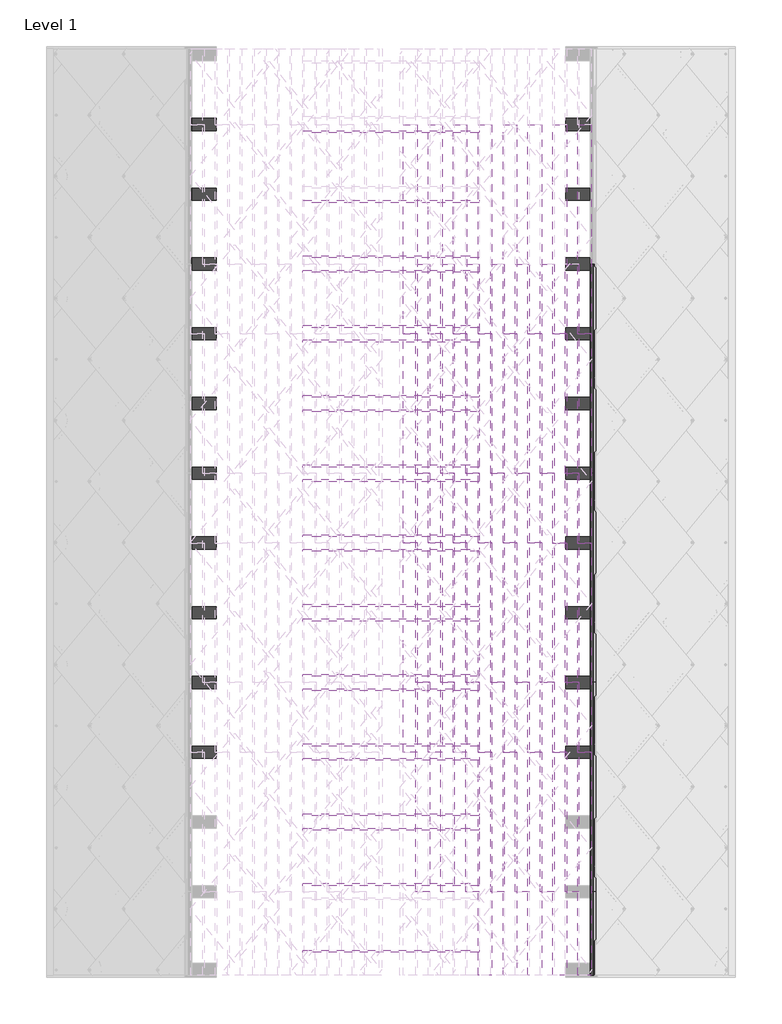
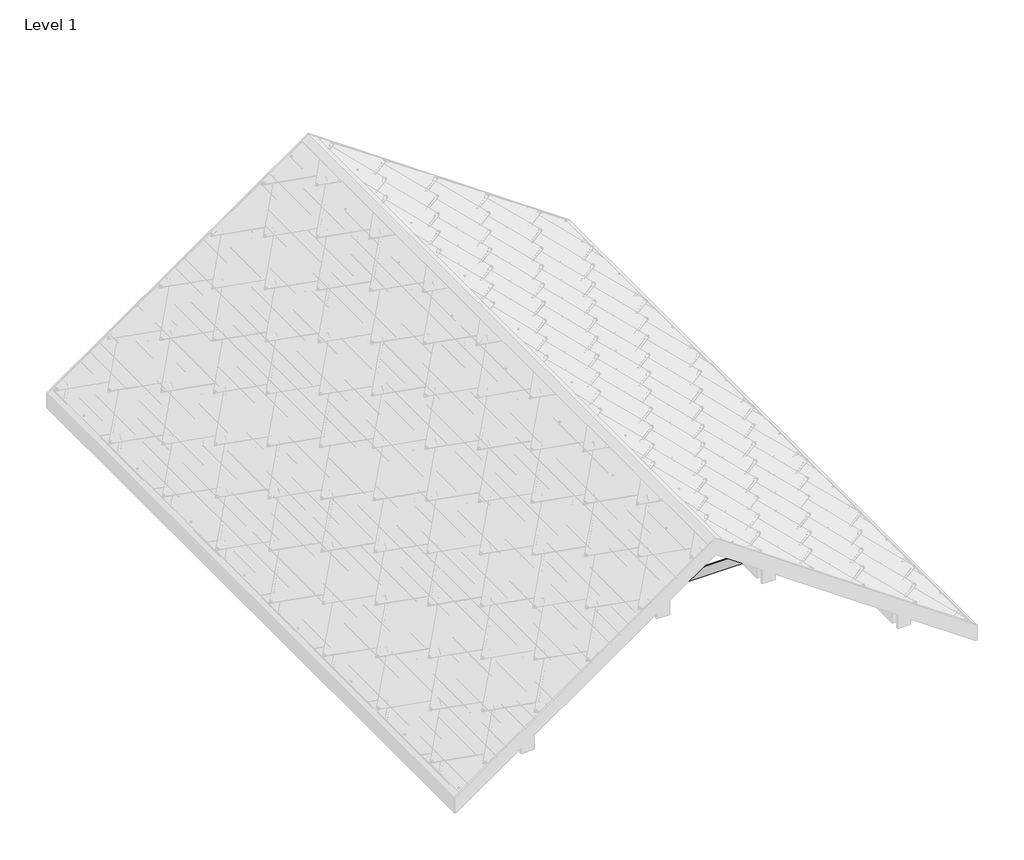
# One storey, part 2 of 5: 122 beams.
"""IFC4 building model written with IfcOpenShell, lengths in millimetres."""

from ifc_helpers import new_model, si_unit, origin, place, context, project, spatial, transform, mapped, element, save
from components import structural_framing_1_structural_framing_1_4f4e03de, structural_framing_156_structural_framing_15_8572bb24, structural_framing_161_structural_framing_15_e03e88da, structural_framing_163_structural_framing_15_fd44f6a2, structural_framing_159_structural_framing_15_e730e61d, structural_framing_296_structural_framing_296_04115515, structural_framing_298_structural_framing_296_1c13a3da

model = new_model("IFC4")

# Units and contexts
model_context = context("Model", 3, world=origin())
ifc_project = project(units=[si_unit("LENGTHUNIT", "METRE", prefix="MILLI")], contexts=[model_context])

# Site, building, storey
site = spatial("IfcSite", under=ifc_project)
building = spatial("IfcBuilding", under=site)
storey = spatial("IfcBuildingStorey", under=building, Name="Level 1", Elevation=0.0)

# Beams
placement = place(None, origin())
structural_framing_1_structural_framing_1_shape = structural_framing_1_structural_framing_1_4f4e03de(model_context)
element("IfcBeam", 1, ObjectType="Structural Framing 10 : Structural Framing 1", at=placement, inside=storey, context=model_context, shape_type="MappedRepresentation", body=[
    mapped(structural_framing_1_structural_framing_1_shape, transform((0.0, -7200.0, 0.0), x_axis=(1.0, 0.0, 0.0), y_axis=(0.0, 1.0, 0.0), z_axis=(0.0, 0.0, 1.0))),
])
element("IfcBeam", 2, ObjectType="Structural Framing 11 : Structural Framing 1", at=placement, inside=storey, context=model_context, shape_type="MappedRepresentation", body=[
    mapped(structural_framing_1_structural_framing_1_shape, transform((0.0, -8000.0, 0.0), x_axis=(1.0, 0.0, 0.0), y_axis=(0.0, 1.0, 0.0), z_axis=(0.0, 0.0, 1.0))),
])
structural_framing_156_structural_framing_15_shape = structural_framing_156_structural_framing_15_8572bb24(model_context)
element("IfcBeam", 3, ObjectType="Structural Framing 160 : Structural Framing 15", at=placement, inside=storey, context=model_context, shape_type="MappedRepresentation", body=[
    mapped(structural_framing_156_structural_framing_15_shape, transform((142.8148007, -870.0, -100.0), x_axis=(1.0, 0.0, 0.0), y_axis=(0.0, 1.0, 0.0), z_axis=(0.0, 0.0, 1.0))),
])
structural_framing_161_structural_framing_15_shape = structural_framing_161_structural_framing_15_e03e88da(model_context)
element("IfcBeam", 4, ObjectType="Structural Framing 161 : Structural Framing 15", at=placement, inside=storey, context=model_context, shape_type="MappedRepresentation", body=[
    mapped(structural_framing_161_structural_framing_15_shape, transform((142.8148007, -3340.0, -100.0), x_axis=(1.0, 0.0, 0.0), y_axis=(0.0, 1.0, 0.0), z_axis=(0.0, 0.0, 1.0))),
])
element("IfcBeam", 5, ObjectType="Structural Framing 162 : Structural Framing 15", at=placement, inside=storey, context=model_context, shape_type="MappedRepresentation", body=[
    mapped(structural_framing_161_structural_framing_15_shape, transform((142.8148007, -5740.0, -100.0), x_axis=(1.0, 0.0, 0.0), y_axis=(0.0, 1.0, 0.0), z_axis=(0.0, 0.0, 1.0))),
])
element("IfcBeam", 6, ObjectType="Structural Framing 166 : Structural Framing 15", at=placement, inside=storey, context=model_context, shape_type="MappedRepresentation", body=[
    mapped(structural_framing_156_structural_framing_15_shape, transform((285.6296013, -2470.0, -200.0), x_axis=(1.0, 0.0, 0.0), y_axis=(0.0, 1.0, 0.0), z_axis=(0.0, 0.0, 1.0))),
])
element("IfcBeam", 7, ObjectType="Structural Framing 167 : Structural Framing 15", at=placement, inside=storey, context=model_context, shape_type="MappedRepresentation", body=[
    mapped(structural_framing_156_structural_framing_15_shape, transform((285.6296013, -4870.0, -200.0), x_axis=(1.0, 0.0, 0.0), y_axis=(0.0, 1.0, 0.0), z_axis=(0.0, 0.0, 1.0))),
])
element("IfcBeam", 8, ObjectType="Structural Framing 168 : Structural Framing 15", at=placement, inside=storey, context=model_context, shape_type="MappedRepresentation", body=[
    mapped(structural_framing_156_structural_framing_15_shape, transform((285.6296013, -7270.0, -200.0), x_axis=(1.0, 0.0, 0.0), y_axis=(0.0, 1.0, 0.0), z_axis=(0.0, 0.0, 1.0))),
])
element("IfcBeam", 9, ObjectType="Structural Framing 170 : Structural Framing 15", at=placement, inside=storey, context=model_context, shape_type="MappedRepresentation", body=[
    mapped(structural_framing_156_structural_framing_15_shape, transform((428.444402, -870.0, -300.0), x_axis=(1.0, 0.0, 0.0), y_axis=(0.0, 1.0, 0.0), z_axis=(0.0, 0.0, 1.0))),
])
element("IfcBeam", 10, ObjectType="Structural Framing 171 : Structural Framing 15", at=placement, inside=storey, context=model_context, shape_type="MappedRepresentation", body=[
    mapped(structural_framing_161_structural_framing_15_shape, transform((428.444402, -3340.0, -300.0), x_axis=(1.0, 0.0, 0.0), y_axis=(0.0, 1.0, 0.0), z_axis=(0.0, 0.0, 1.0))),
])
element("IfcBeam", 11, ObjectType="Structural Framing 172 : Structural Framing 15", at=placement, inside=storey, context=model_context, shape_type="MappedRepresentation", body=[
    mapped(structural_framing_161_structural_framing_15_shape, transform((428.444402, -5740.0, -300.0), x_axis=(1.0, 0.0, 0.0), y_axis=(0.0, 1.0, 0.0), z_axis=(0.0, 0.0, 1.0))),
])
element("IfcBeam", 12, ObjectType="Structural Framing 176 : Structural Framing 15", at=placement, inside=storey, context=model_context, shape_type="MappedRepresentation", body=[
    mapped(structural_framing_156_structural_framing_15_shape, transform((571.2592027, -2470.0, -400.0), x_axis=(1.0, 0.0, 0.0), y_axis=(0.0, 1.0, 0.0), z_axis=(0.0, 0.0, 1.0))),
])
element("IfcBeam", 13, ObjectType="Structural Framing 177 : Structural Framing 15", at=placement, inside=storey, context=model_context, shape_type="MappedRepresentation", body=[
    mapped(structural_framing_156_structural_framing_15_shape, transform((571.2592027, -4870.0, -400.0), x_axis=(1.0, 0.0, 0.0), y_axis=(0.0, 1.0, 0.0), z_axis=(0.0, 0.0, 1.0))),
])
element("IfcBeam", 14, ObjectType="Structural Framing 178 : Structural Framing 15", at=placement, inside=storey, context=model_context, shape_type="MappedRepresentation", body=[
    mapped(structural_framing_156_structural_framing_15_shape, transform((571.2592027, -7270.0, -400.0), x_axis=(1.0, 0.0, 0.0), y_axis=(0.0, 1.0, 0.0), z_axis=(0.0, 0.0, 1.0))),
])
element("IfcBeam", 15, ObjectType="Structural Framing 180 : Structural Framing 15", at=placement, inside=storey, context=model_context, shape_type="MappedRepresentation", body=[
    mapped(structural_framing_156_structural_framing_15_shape, transform((714.0740034, -870.0, -500.0), x_axis=(1.0, 0.0, 0.0), y_axis=(0.0, 1.0, 0.0), z_axis=(0.0, 0.0, 1.0))),
])
element("IfcBeam", 16, ObjectType="Structural Framing 181 : Structural Framing 15", at=placement, inside=storey, context=model_context, shape_type="MappedRepresentation", body=[
    mapped(structural_framing_161_structural_framing_15_shape, transform((714.0740034, -3340.0, -500.0), x_axis=(1.0, 0.0, 0.0), y_axis=(0.0, 1.0, 0.0), z_axis=(0.0, 0.0, 1.0))),
])
element("IfcBeam", 17, ObjectType="Structural Framing 182 : Structural Framing 15", at=placement, inside=storey, context=model_context, shape_type="MappedRepresentation", body=[
    mapped(structural_framing_161_structural_framing_15_shape, transform((714.0740034, -5740.0, -500.0), x_axis=(1.0, 0.0, 0.0), y_axis=(0.0, 1.0, 0.0), z_axis=(0.0, 0.0, 1.0))),
])
element("IfcBeam", 18, ObjectType="Structural Framing 186 : Structural Framing 15", at=placement, inside=storey, context=model_context, shape_type="MappedRepresentation", body=[
    mapped(structural_framing_156_structural_framing_15_shape, transform((856.888804, -2470.0, -600.0), x_axis=(1.0, 0.0, 0.0), y_axis=(0.0, 1.0, 0.0), z_axis=(0.0, 0.0, 1.0))),
])
element("IfcBeam", 19, ObjectType="Structural Framing 187 : Structural Framing 15", at=placement, inside=storey, context=model_context, shape_type="MappedRepresentation", body=[
    mapped(structural_framing_156_structural_framing_15_shape, transform((856.888804, -4870.0, -600.0), x_axis=(1.0, 0.0, 0.0), y_axis=(0.0, 1.0, 0.0), z_axis=(0.0, 0.0, 1.0))),
])
element("IfcBeam", 20, ObjectType="Structural Framing 188 : Structural Framing 15", at=placement, inside=storey, context=model_context, shape_type="MappedRepresentation", body=[
    mapped(structural_framing_156_structural_framing_15_shape, transform((856.888804, -7270.0, -600.0), x_axis=(1.0, 0.0, 0.0), y_axis=(0.0, 1.0, 0.0), z_axis=(0.0, 0.0, 1.0))),
])
element("IfcBeam", 21, ObjectType="Structural Framing 190 : Structural Framing 15", at=placement, inside=storey, context=model_context, shape_type="MappedRepresentation", body=[
    mapped(structural_framing_156_structural_framing_15_shape, transform((999.7036047, -870.0, -700.0), x_axis=(1.0, 0.0, 0.0), y_axis=(0.0, 1.0, 0.0), z_axis=(0.0, 0.0, 1.0))),
])
element("IfcBeam", 22, ObjectType="Structural Framing 191 : Structural Framing 15", at=placement, inside=storey, context=model_context, shape_type="MappedRepresentation", body=[
    mapped(structural_framing_161_structural_framing_15_shape, transform((999.7036047, -3340.0, -700.0), x_axis=(1.0, 0.0, 0.0), y_axis=(0.0, 1.0, 0.0), z_axis=(0.0, 0.0, 1.0))),
])
element("IfcBeam", 23, ObjectType="Structural Framing 192 : Structural Framing 15", at=placement, inside=storey, context=model_context, shape_type="MappedRepresentation", body=[
    mapped(structural_framing_161_structural_framing_15_shape, transform((999.7036047, -5740.0, -700.0), x_axis=(1.0, 0.0, 0.0), y_axis=(0.0, 1.0, 0.0), z_axis=(0.0, 0.0, 1.0))),
])
structural_framing_163_structural_framing_15_shape = structural_framing_163_structural_framing_15_fd44f6a2(model_context)
element("IfcBeam", 24, ObjectType="Structural Framing 193 : Structural Framing 15", at=placement, inside=storey, context=model_context, shape_type="MappedRepresentation", body=[
    mapped(structural_framing_163_structural_framing_15_shape, transform((999.7036047, -8140.0, -700.0), x_axis=(1.0, 0.0, 0.0), y_axis=(0.0, 1.0, 0.0), z_axis=(0.0, 0.0, 1.0))),
])
element("IfcBeam", 25, ObjectType="Structural Framing 196 : Structural Framing 15", at=placement, inside=storey, context=model_context, shape_type="MappedRepresentation", body=[
    mapped(structural_framing_156_structural_framing_15_shape, transform((1142.5184054, -2470.0, -800.0), x_axis=(1.0, 0.0, 0.0), y_axis=(0.0, 1.0, 0.0), z_axis=(0.0, 0.0, 1.0))),
])
element("IfcBeam", 26, ObjectType="Structural Framing 197 : Structural Framing 15", at=placement, inside=storey, context=model_context, shape_type="MappedRepresentation", body=[
    mapped(structural_framing_156_structural_framing_15_shape, transform((1142.5184054, -4870.0, -800.0), x_axis=(1.0, 0.0, 0.0), y_axis=(0.0, 1.0, 0.0), z_axis=(0.0, 0.0, 1.0))),
])
element("IfcBeam", 27, ObjectType="Structural Framing 198 : Structural Framing 15", at=placement, inside=storey, context=model_context, shape_type="MappedRepresentation", body=[
    mapped(structural_framing_156_structural_framing_15_shape, transform((1142.5184054, -7270.0, -800.0), x_axis=(1.0, 0.0, 0.0), y_axis=(0.0, 1.0, 0.0), z_axis=(0.0, 0.0, 1.0))),
])
element("IfcBeam", 28, ObjectType="Structural Framing 2 : Structural Framing 1", at=placement, inside=storey, context=model_context, shape_type="MappedRepresentation", body=[
    mapped(structural_framing_1_structural_framing_1_shape, transform((0.0, -800.0, 0.0), x_axis=(1.0, 0.0, 0.0), y_axis=(0.0, 1.0, 0.0), z_axis=(0.0, 0.0, 1.0))),
])
element("IfcBeam", 29, ObjectType="Structural Framing 200 : Structural Framing 15", at=placement, inside=storey, context=model_context, shape_type="MappedRepresentation", body=[
    mapped(structural_framing_156_structural_framing_15_shape, transform((1285.3332061, -870.0, -900.0), x_axis=(1.0, 0.0, 0.0), y_axis=(0.0, 1.0, 0.0), z_axis=(0.0, 0.0, 1.0))),
])
element("IfcBeam", 30, ObjectType="Structural Framing 201 : Structural Framing 15", at=placement, inside=storey, context=model_context, shape_type="MappedRepresentation", body=[
    mapped(structural_framing_161_structural_framing_15_shape, transform((1285.3332061, -3340.0, -900.0), x_axis=(1.0, 0.0, 0.0), y_axis=(0.0, 1.0, 0.0), z_axis=(0.0, 0.0, 1.0))),
])
element("IfcBeam", 31, ObjectType="Structural Framing 202 : Structural Framing 15", at=placement, inside=storey, context=model_context, shape_type="MappedRepresentation", body=[
    mapped(structural_framing_161_structural_framing_15_shape, transform((1285.3332061, -5740.0, -900.0), x_axis=(1.0, 0.0, 0.0), y_axis=(0.0, 1.0, 0.0), z_axis=(0.0, 0.0, 1.0))),
])
element("IfcBeam", 32, ObjectType="Structural Framing 203 : Structural Framing 15", at=placement, inside=storey, context=model_context, shape_type="MappedRepresentation", body=[
    mapped(structural_framing_163_structural_framing_15_shape, transform((1285.3332061, -8140.0, -900.0), x_axis=(1.0, 0.0, 0.0), y_axis=(0.0, 1.0, 0.0), z_axis=(0.0, 0.0, 1.0))),
])
element("IfcBeam", 33, ObjectType="Structural Framing 206 : Structural Framing 15", at=placement, inside=storey, context=model_context, shape_type="MappedRepresentation", body=[
    mapped(structural_framing_156_structural_framing_15_shape, transform((1428.1480067, -2470.0, -1000.0), x_axis=(1.0, 0.0, 0.0), y_axis=(0.0, 1.0, 0.0), z_axis=(0.0, 0.0, 1.0))),
])
element("IfcBeam", 34, ObjectType="Structural Framing 207 : Structural Framing 15", at=placement, inside=storey, context=model_context, shape_type="MappedRepresentation", body=[
    mapped(structural_framing_156_structural_framing_15_shape, transform((1428.1480067, -4870.0, -1000.0), x_axis=(1.0, 0.0, 0.0), y_axis=(0.0, 1.0, 0.0), z_axis=(0.0, 0.0, 1.0))),
])
element("IfcBeam", 35, ObjectType="Structural Framing 208 : Structural Framing 15", at=placement, inside=storey, context=model_context, shape_type="MappedRepresentation", body=[
    mapped(structural_framing_156_structural_framing_15_shape, transform((1428.1480067, -7270.0, -1000.0), x_axis=(1.0, 0.0, 0.0), y_axis=(0.0, 1.0, 0.0), z_axis=(0.0, 0.0, 1.0))),
])
element("IfcBeam", 36, ObjectType="Structural Framing 210 : Structural Framing 15", at=placement, inside=storey, context=model_context, shape_type="MappedRepresentation", body=[
    mapped(structural_framing_156_structural_framing_15_shape, transform((1570.9628074, -870.0, -1100.0), x_axis=(1.0, 0.0, 0.0), y_axis=(0.0, 1.0, 0.0), z_axis=(0.0, 0.0, 1.0))),
])
element("IfcBeam", 37, ObjectType="Structural Framing 211 : Structural Framing 15", at=placement, inside=storey, context=model_context, shape_type="MappedRepresentation", body=[
    mapped(structural_framing_161_structural_framing_15_shape, transform((1570.9628074, -3340.0, -1100.0), x_axis=(1.0, 0.0, 0.0), y_axis=(0.0, 1.0, 0.0), z_axis=(0.0, 0.0, 1.0))),
])
element("IfcBeam", 38, ObjectType="Structural Framing 212 : Structural Framing 15", at=placement, inside=storey, context=model_context, shape_type="MappedRepresentation", body=[
    mapped(structural_framing_161_structural_framing_15_shape, transform((1570.9628074, -5740.0, -1100.0), x_axis=(1.0, 0.0, 0.0), y_axis=(0.0, 1.0, 0.0), z_axis=(0.0, 0.0, 1.0))),
])
element("IfcBeam", 39, ObjectType="Structural Framing 213 : Structural Framing 15", at=placement, inside=storey, context=model_context, shape_type="MappedRepresentation", body=[
    mapped(structural_framing_163_structural_framing_15_shape, transform((1570.9628074, -8140.0, -1100.0), x_axis=(1.0, 0.0, 0.0), y_axis=(0.0, 1.0, 0.0), z_axis=(0.0, 0.0, 1.0))),
])
element("IfcBeam", 40, ObjectType="Structural Framing 216 : Structural Framing 15", at=placement, inside=storey, context=model_context, shape_type="MappedRepresentation", body=[
    mapped(structural_framing_156_structural_framing_15_shape, transform((1713.7776081, -2470.0, -1200.0), x_axis=(1.0, 0.0, 0.0), y_axis=(0.0, 1.0, 0.0), z_axis=(0.0, 0.0, 1.0))),
])
element("IfcBeam", 41, ObjectType="Structural Framing 217 : Structural Framing 15", at=placement, inside=storey, context=model_context, shape_type="MappedRepresentation", body=[
    mapped(structural_framing_156_structural_framing_15_shape, transform((1713.7776081, -4870.0, -1200.0), x_axis=(1.0, 0.0, 0.0), y_axis=(0.0, 1.0, 0.0), z_axis=(0.0, 0.0, 1.0))),
])
element("IfcBeam", 42, ObjectType="Structural Framing 218 : Structural Framing 15", at=placement, inside=storey, context=model_context, shape_type="MappedRepresentation", body=[
    mapped(structural_framing_156_structural_framing_15_shape, transform((1713.7776081, -7270.0, -1200.0), x_axis=(1.0, 0.0, 0.0), y_axis=(0.0, 1.0, 0.0), z_axis=(0.0, 0.0, 1.0))),
])
element("IfcBeam", 43, ObjectType="Structural Framing 220 : Structural Framing 15", at=placement, inside=storey, context=model_context, shape_type="MappedRepresentation", body=[
    mapped(structural_framing_156_structural_framing_15_shape, transform((1856.5924088, -870.0, -1300.0), x_axis=(1.0, 0.0, 0.0), y_axis=(0.0, 1.0, 0.0), z_axis=(0.0, 0.0, 1.0))),
])
element("IfcBeam", 44, ObjectType="Structural Framing 221 : Structural Framing 15", at=placement, inside=storey, context=model_context, shape_type="MappedRepresentation", body=[
    mapped(structural_framing_161_structural_framing_15_shape, transform((1856.5924088, -3340.0, -1300.0), x_axis=(1.0, 0.0, 0.0), y_axis=(0.0, 1.0, 0.0), z_axis=(0.0, 0.0, 1.0))),
])
element("IfcBeam", 45, ObjectType="Structural Framing 222 : Structural Framing 15", at=placement, inside=storey, context=model_context, shape_type="MappedRepresentation", body=[
    mapped(structural_framing_161_structural_framing_15_shape, transform((1856.5924088, -5740.0, -1300.0), x_axis=(1.0, 0.0, 0.0), y_axis=(0.0, 1.0, 0.0), z_axis=(0.0, 0.0, 1.0))),
])
element("IfcBeam", 46, ObjectType="Structural Framing 223 : Structural Framing 15", at=placement, inside=storey, context=model_context, shape_type="MappedRepresentation", body=[
    mapped(structural_framing_163_structural_framing_15_shape, transform((1856.5924088, -8140.0, -1300.0), x_axis=(1.0, 0.0, 0.0), y_axis=(0.0, 1.0, 0.0), z_axis=(0.0, 0.0, 1.0))),
])
element("IfcBeam", 47, ObjectType="Structural Framing 226 : Structural Framing 15", at=placement, inside=storey, context=model_context, shape_type="MappedRepresentation", body=[
    mapped(structural_framing_156_structural_framing_15_shape, transform((1999.4072094, -2470.0, -1400.0), x_axis=(1.0, 0.0, 0.0), y_axis=(0.0, 1.0, 0.0), z_axis=(0.0, 0.0, 1.0))),
])
element("IfcBeam", 48, ObjectType="Structural Framing 227 : Structural Framing 15", at=placement, inside=storey, context=model_context, shape_type="MappedRepresentation", body=[
    mapped(structural_framing_156_structural_framing_15_shape, transform((1999.4072094, -4870.0, -1400.0), x_axis=(1.0, 0.0, 0.0), y_axis=(0.0, 1.0, 0.0), z_axis=(0.0, 0.0, 1.0))),
])
element("IfcBeam", 49, ObjectType="Structural Framing 228 : Structural Framing 15", at=placement, inside=storey, context=model_context, shape_type="MappedRepresentation", body=[
    mapped(structural_framing_156_structural_framing_15_shape, transform((1999.4072094, -7270.0, -1400.0), x_axis=(1.0, 0.0, 0.0), y_axis=(0.0, 1.0, 0.0), z_axis=(0.0, 0.0, 1.0))),
])
element("IfcBeam", 50, ObjectType="Structural Framing 230 : Structural Framing 15", at=placement, inside=storey, context=model_context, shape_type="MappedRepresentation", body=[
    mapped(structural_framing_156_structural_framing_15_shape, transform((2142.2220101, -870.0, -1500.0), x_axis=(1.0, 0.0, 0.0), y_axis=(0.0, 1.0, 0.0), z_axis=(0.0, 0.0, 1.0))),
])
element("IfcBeam", 51, ObjectType="Structural Framing 231 : Structural Framing 15", at=placement, inside=storey, context=model_context, shape_type="MappedRepresentation", body=[
    mapped(structural_framing_161_structural_framing_15_shape, transform((2142.2220101, -3340.0, -1500.0), x_axis=(1.0, 0.0, 0.0), y_axis=(0.0, 1.0, 0.0), z_axis=(0.0, 0.0, 1.0))),
])
element("IfcBeam", 52, ObjectType="Structural Framing 232 : Structural Framing 15", at=placement, inside=storey, context=model_context, shape_type="MappedRepresentation", body=[
    mapped(structural_framing_161_structural_framing_15_shape, transform((2142.2220101, -5740.0, -1500.0), x_axis=(1.0, 0.0, 0.0), y_axis=(0.0, 1.0, 0.0), z_axis=(0.0, 0.0, 1.0))),
])
element("IfcBeam", 53, ObjectType="Structural Framing 233 : Structural Framing 15", at=placement, inside=storey, context=model_context, shape_type="MappedRepresentation", body=[
    mapped(structural_framing_163_structural_framing_15_shape, transform((2142.2220101, -8140.0, -1500.0), x_axis=(1.0, 0.0, 0.0), y_axis=(0.0, 1.0, 0.0), z_axis=(0.0, 0.0, 1.0))),
])
element("IfcBeam", 54, ObjectType="Structural Framing 236 : Structural Framing 15", at=placement, inside=storey, context=model_context, shape_type="MappedRepresentation", body=[
    mapped(structural_framing_156_structural_framing_15_shape, transform((2285.0368108, -2470.0, -1600.0), x_axis=(1.0, 0.0, 0.0), y_axis=(0.0, 1.0, 0.0), z_axis=(0.0, 0.0, 1.0))),
])
element("IfcBeam", 55, ObjectType="Structural Framing 237 : Structural Framing 15", at=placement, inside=storey, context=model_context, shape_type="MappedRepresentation", body=[
    mapped(structural_framing_156_structural_framing_15_shape, transform((2285.0368108, -4870.0, -1600.0), x_axis=(1.0, 0.0, 0.0), y_axis=(0.0, 1.0, 0.0), z_axis=(0.0, 0.0, 1.0))),
])
element("IfcBeam", 56, ObjectType="Structural Framing 238 : Structural Framing 15", at=placement, inside=storey, context=model_context, shape_type="MappedRepresentation", body=[
    mapped(structural_framing_156_structural_framing_15_shape, transform((2285.0368108, -7270.0, -1600.0), x_axis=(1.0, 0.0, 0.0), y_axis=(0.0, 1.0, 0.0), z_axis=(0.0, 0.0, 1.0))),
])
structural_framing_159_structural_framing_15_shape = structural_framing_159_structural_framing_15_e730e61d(model_context)
element("IfcBeam", 57, ObjectType="Structural Framing 239 : Structural Framing 15", at=placement, inside=storey, context=model_context, shape_type="MappedRepresentation", body=[
    mapped(structural_framing_159_structural_framing_15_shape, transform((2285.0368108, -9670.0, -1600.0), x_axis=(1.0, 0.0, 0.0), y_axis=(0.0, 1.0, 0.0), z_axis=(0.0, 0.0, 1.0))),
])
element("IfcBeam", 58, ObjectType="Structural Framing 240 : Structural Framing 15", at=placement, inside=storey, context=model_context, shape_type="MappedRepresentation", body=[
    mapped(structural_framing_156_structural_framing_15_shape, transform((2427.8516115, -870.0, -1700.0), x_axis=(1.0, 0.0, 0.0), y_axis=(0.0, 1.0, 0.0), z_axis=(0.0, 0.0, 1.0))),
])
element("IfcBeam", 59, ObjectType="Structural Framing 241 : Structural Framing 15", at=placement, inside=storey, context=model_context, shape_type="MappedRepresentation", body=[
    mapped(structural_framing_161_structural_framing_15_shape, transform((2427.8516115, -3340.0, -1700.0), x_axis=(1.0, 0.0, 0.0), y_axis=(0.0, 1.0, 0.0), z_axis=(0.0, 0.0, 1.0))),
])
element("IfcBeam", 60, ObjectType="Structural Framing 242 : Structural Framing 15", at=placement, inside=storey, context=model_context, shape_type="MappedRepresentation", body=[
    mapped(structural_framing_161_structural_framing_15_shape, transform((2427.8516115, -5740.0, -1700.0), x_axis=(1.0, 0.0, 0.0), y_axis=(0.0, 1.0, 0.0), z_axis=(0.0, 0.0, 1.0))),
])
element("IfcBeam", 61, ObjectType="Structural Framing 243 : Structural Framing 15", at=placement, inside=storey, context=model_context, shape_type="MappedRepresentation", body=[
    mapped(structural_framing_163_structural_framing_15_shape, transform((2427.8516115, -8140.0, -1700.0), x_axis=(1.0, 0.0, 0.0), y_axis=(0.0, 1.0, 0.0), z_axis=(0.0, 0.0, 1.0))),
])
element("IfcBeam", 62, ObjectType="Structural Framing 246 : Structural Framing 15", at=placement, inside=storey, context=model_context, shape_type="MappedRepresentation", body=[
    mapped(structural_framing_156_structural_framing_15_shape, transform((2570.6664121, -2470.0, -1800.0), x_axis=(1.0, 0.0, 0.0), y_axis=(0.0, 1.0, 0.0), z_axis=(0.0, 0.0, 1.0))),
])
element("IfcBeam", 63, ObjectType="Structural Framing 247 : Structural Framing 15", at=placement, inside=storey, context=model_context, shape_type="MappedRepresentation", body=[
    mapped(structural_framing_156_structural_framing_15_shape, transform((2570.6664121, -4870.0, -1800.0), x_axis=(1.0, 0.0, 0.0), y_axis=(0.0, 1.0, 0.0), z_axis=(0.0, 0.0, 1.0))),
])
element("IfcBeam", 64, ObjectType="Structural Framing 248 : Structural Framing 15", at=placement, inside=storey, context=model_context, shape_type="MappedRepresentation", body=[
    mapped(structural_framing_156_structural_framing_15_shape, transform((2570.6664121, -7270.0, -1800.0), x_axis=(1.0, 0.0, 0.0), y_axis=(0.0, 1.0, 0.0), z_axis=(0.0, 0.0, 1.0))),
])
element("IfcBeam", 65, ObjectType="Structural Framing 249 : Structural Framing 15", at=placement, inside=storey, context=model_context, shape_type="MappedRepresentation", body=[
    mapped(structural_framing_159_structural_framing_15_shape, transform((2570.6664121, -9670.0, -1800.0), x_axis=(1.0, 0.0, 0.0), y_axis=(0.0, 1.0, 0.0), z_axis=(0.0, 0.0, 1.0))),
])
element("IfcBeam", 66, ObjectType="Structural Framing 251 : Structural Framing 15", at=placement, inside=storey, context=model_context, shape_type="MappedRepresentation", body=[
    mapped(structural_framing_161_structural_framing_15_shape, transform((2713.4812128, -3340.0, -1900.0), x_axis=(1.0, 0.0, 0.0), y_axis=(0.0, 1.0, 0.0), z_axis=(0.0, 0.0, 1.0))),
])
element("IfcBeam", 67, ObjectType="Structural Framing 252 : Structural Framing 15", at=placement, inside=storey, context=model_context, shape_type="MappedRepresentation", body=[
    mapped(structural_framing_161_structural_framing_15_shape, transform((2713.4812128, -5740.0, -1900.0), x_axis=(1.0, 0.0, 0.0), y_axis=(0.0, 1.0, 0.0), z_axis=(0.0, 0.0, 1.0))),
])
element("IfcBeam", 68, ObjectType="Structural Framing 253 : Structural Framing 15", at=placement, inside=storey, context=model_context, shape_type="MappedRepresentation", body=[
    mapped(structural_framing_163_structural_framing_15_shape, transform((2713.4812128, -8140.0, -1900.0), x_axis=(1.0, 0.0, 0.0), y_axis=(0.0, 1.0, 0.0), z_axis=(0.0, 0.0, 1.0))),
])
element("IfcBeam", 69, ObjectType="Structural Framing 256 : Structural Framing 15", at=placement, inside=storey, context=model_context, shape_type="MappedRepresentation", body=[
    mapped(structural_framing_156_structural_framing_15_shape, transform((2856.2960135, -2470.0, -2000.0), x_axis=(1.0, 0.0, 0.0), y_axis=(0.0, 1.0, 0.0), z_axis=(0.0, 0.0, 1.0))),
])
element("IfcBeam", 70, ObjectType="Structural Framing 257 : Structural Framing 15", at=placement, inside=storey, context=model_context, shape_type="MappedRepresentation", body=[
    mapped(structural_framing_156_structural_framing_15_shape, transform((2856.2960135, -4870.0, -2000.0), x_axis=(1.0, 0.0, 0.0), y_axis=(0.0, 1.0, 0.0), z_axis=(0.0, 0.0, 1.0))),
])
element("IfcBeam", 71, ObjectType="Structural Framing 258 : Structural Framing 15", at=placement, inside=storey, context=model_context, shape_type="MappedRepresentation", body=[
    mapped(structural_framing_156_structural_framing_15_shape, transform((2856.2960135, -7270.0, -2000.0), x_axis=(1.0, 0.0, 0.0), y_axis=(0.0, 1.0, 0.0), z_axis=(0.0, 0.0, 1.0))),
])
element("IfcBeam", 72, ObjectType="Structural Framing 259 : Structural Framing 15", at=placement, inside=storey, context=model_context, shape_type="MappedRepresentation", body=[
    mapped(structural_framing_159_structural_framing_15_shape, transform((2856.2960135, -9670.0, -2000.0), x_axis=(1.0, 0.0, 0.0), y_axis=(0.0, 1.0, 0.0), z_axis=(0.0, 0.0, 1.0))),
])
element("IfcBeam", 73, ObjectType="Structural Framing 261 : Structural Framing 15", at=placement, inside=storey, context=model_context, shape_type="MappedRepresentation", body=[
    mapped(structural_framing_161_structural_framing_15_shape, transform((2999.1108142, -3340.0, -2100.0), x_axis=(1.0, 0.0, 0.0), y_axis=(0.0, 1.0, 0.0), z_axis=(0.0, 0.0, 1.0))),
])
element("IfcBeam", 74, ObjectType="Structural Framing 262 : Structural Framing 15", at=placement, inside=storey, context=model_context, shape_type="MappedRepresentation", body=[
    mapped(structural_framing_161_structural_framing_15_shape, transform((2999.1108142, -5740.0, -2100.0), x_axis=(1.0, 0.0, 0.0), y_axis=(0.0, 1.0, 0.0), z_axis=(0.0, 0.0, 1.0))),
])
element("IfcBeam", 75, ObjectType="Structural Framing 263 : Structural Framing 15", at=placement, inside=storey, context=model_context, shape_type="MappedRepresentation", body=[
    mapped(structural_framing_163_structural_framing_15_shape, transform((2999.1108142, -8140.0, -2100.0), x_axis=(1.0, 0.0, 0.0), y_axis=(0.0, 1.0, 0.0), z_axis=(0.0, 0.0, 1.0))),
])
element("IfcBeam", 76, ObjectType="Structural Framing 266 : Structural Framing 15", at=placement, inside=storey, context=model_context, shape_type="MappedRepresentation", body=[
    mapped(structural_framing_156_structural_framing_15_shape, transform((3141.9256148, -2470.0, -2200.0), x_axis=(1.0, 0.0, 0.0), y_axis=(0.0, 1.0, 0.0), z_axis=(0.0, 0.0, 1.0))),
])
element("IfcBeam", 77, ObjectType="Structural Framing 267 : Structural Framing 15", at=placement, inside=storey, context=model_context, shape_type="MappedRepresentation", body=[
    mapped(structural_framing_156_structural_framing_15_shape, transform((3141.9256148, -4870.0, -2200.0), x_axis=(1.0, 0.0, 0.0), y_axis=(0.0, 1.0, 0.0), z_axis=(0.0, 0.0, 1.0))),
])
element("IfcBeam", 78, ObjectType="Structural Framing 268 : Structural Framing 15", at=placement, inside=storey, context=model_context, shape_type="MappedRepresentation", body=[
    mapped(structural_framing_156_structural_framing_15_shape, transform((3141.9256148, -7270.0, -2200.0), x_axis=(1.0, 0.0, 0.0), y_axis=(0.0, 1.0, 0.0), z_axis=(0.0, 0.0, 1.0))),
])
element("IfcBeam", 79, ObjectType="Structural Framing 269 : Structural Framing 15", at=placement, inside=storey, context=model_context, shape_type="MappedRepresentation", body=[
    mapped(structural_framing_159_structural_framing_15_shape, transform((3141.9256148, -9670.0, -2200.0), x_axis=(1.0, 0.0, 0.0), y_axis=(0.0, 1.0, 0.0), z_axis=(0.0, 0.0, 1.0))),
])
element("IfcBeam", 80, ObjectType="Structural Framing 271 : Structural Framing 15", at=placement, inside=storey, context=model_context, shape_type="MappedRepresentation", body=[
    mapped(structural_framing_161_structural_framing_15_shape, transform((3284.7404155, -3340.0, -2300.0), x_axis=(1.0, 0.0, 0.0), y_axis=(0.0, 1.0, 0.0), z_axis=(0.0, 0.0, 1.0))),
])
element("IfcBeam", 81, ObjectType="Structural Framing 272 : Structural Framing 15", at=placement, inside=storey, context=model_context, shape_type="MappedRepresentation", body=[
    mapped(structural_framing_161_structural_framing_15_shape, transform((3284.7404155, -5740.0, -2300.0), x_axis=(1.0, 0.0, 0.0), y_axis=(0.0, 1.0, 0.0), z_axis=(0.0, 0.0, 1.0))),
])
element("IfcBeam", 82, ObjectType="Structural Framing 273 : Structural Framing 15", at=placement, inside=storey, context=model_context, shape_type="MappedRepresentation", body=[
    mapped(structural_framing_163_structural_framing_15_shape, transform((3284.7404155, -8140.0, -2300.0), x_axis=(1.0, 0.0, 0.0), y_axis=(0.0, 1.0, 0.0), z_axis=(0.0, 0.0, 1.0))),
])
element("IfcBeam", 83, ObjectType="Structural Framing 276 : Structural Framing 15", at=placement, inside=storey, context=model_context, shape_type="MappedRepresentation", body=[
    mapped(structural_framing_156_structural_framing_15_shape, transform((3427.5552162, -2470.0, -2400.0), x_axis=(1.0, 0.0, 0.0), y_axis=(0.0, 1.0, 0.0), z_axis=(0.0, 0.0, 1.0))),
])
element("IfcBeam", 84, ObjectType="Structural Framing 277 : Structural Framing 15", at=placement, inside=storey, context=model_context, shape_type="MappedRepresentation", body=[
    mapped(structural_framing_156_structural_framing_15_shape, transform((3427.5552162, -4870.0, -2400.0), x_axis=(1.0, 0.0, 0.0), y_axis=(0.0, 1.0, 0.0), z_axis=(0.0, 0.0, 1.0))),
])
element("IfcBeam", 85, ObjectType="Structural Framing 278 : Structural Framing 15", at=placement, inside=storey, context=model_context, shape_type="MappedRepresentation", body=[
    mapped(structural_framing_156_structural_framing_15_shape, transform((3427.5552162, -7270.0, -2400.0), x_axis=(1.0, 0.0, 0.0), y_axis=(0.0, 1.0, 0.0), z_axis=(0.0, 0.0, 1.0))),
])
element("IfcBeam", 86, ObjectType="Structural Framing 279 : Structural Framing 15", at=placement, inside=storey, context=model_context, shape_type="MappedRepresentation", body=[
    mapped(structural_framing_159_structural_framing_15_shape, transform((3427.5552162, -9670.0, -2400.0), x_axis=(1.0, 0.0, 0.0), y_axis=(0.0, 1.0, 0.0), z_axis=(0.0, 0.0, 1.0))),
])
element("IfcBeam", 87, ObjectType="Structural Framing 281 : Structural Framing 15", at=placement, inside=storey, context=model_context, shape_type="MappedRepresentation", body=[
    mapped(structural_framing_161_structural_framing_15_shape, transform((3570.3700169, -3340.0, -2500.0), x_axis=(1.0, 0.0, 0.0), y_axis=(0.0, 1.0, 0.0), z_axis=(0.0, 0.0, 1.0))),
])
element("IfcBeam", 88, ObjectType="Structural Framing 282 : Structural Framing 15", at=placement, inside=storey, context=model_context, shape_type="MappedRepresentation", body=[
    mapped(structural_framing_161_structural_framing_15_shape, transform((3570.3700169, -5740.0, -2500.0), x_axis=(1.0, 0.0, 0.0), y_axis=(0.0, 1.0, 0.0), z_axis=(0.0, 0.0, 1.0))),
])
element("IfcBeam", 89, ObjectType="Structural Framing 283 : Structural Framing 15", at=placement, inside=storey, context=model_context, shape_type="MappedRepresentation", body=[
    mapped(structural_framing_163_structural_framing_15_shape, transform((3570.3700169, -8140.0, -2500.0), x_axis=(1.0, 0.0, 0.0), y_axis=(0.0, 1.0, 0.0), z_axis=(0.0, 0.0, 1.0))),
])
element("IfcBeam", 90, ObjectType="Structural Framing 286 : Structural Framing 15", at=placement, inside=storey, context=model_context, shape_type="MappedRepresentation", body=[
    mapped(structural_framing_156_structural_framing_15_shape, transform((3713.1848175, -2470.0, -2600.0), x_axis=(1.0, 0.0, 0.0), y_axis=(0.0, 1.0, 0.0), z_axis=(0.0, 0.0, 1.0))),
])
element("IfcBeam", 91, ObjectType="Structural Framing 287 : Structural Framing 15", at=placement, inside=storey, context=model_context, shape_type="MappedRepresentation", body=[
    mapped(structural_framing_156_structural_framing_15_shape, transform((3713.1848175, -4870.0, -2600.0), x_axis=(1.0, 0.0, 0.0), y_axis=(0.0, 1.0, 0.0), z_axis=(0.0, 0.0, 1.0))),
])
element("IfcBeam", 92, ObjectType="Structural Framing 288 : Structural Framing 15", at=placement, inside=storey, context=model_context, shape_type="MappedRepresentation", body=[
    mapped(structural_framing_156_structural_framing_15_shape, transform((3713.1848175, -7270.0, -2600.0), x_axis=(1.0, 0.0, 0.0), y_axis=(0.0, 1.0, 0.0), z_axis=(0.0, 0.0, 1.0))),
])
element("IfcBeam", 93, ObjectType="Structural Framing 289 : Structural Framing 15", at=placement, inside=storey, context=model_context, shape_type="MappedRepresentation", body=[
    mapped(structural_framing_159_structural_framing_15_shape, transform((3713.1848175, -9670.0, -2600.0), x_axis=(1.0, 0.0, 0.0), y_axis=(0.0, 1.0, 0.0), z_axis=(0.0, 0.0, 1.0))),
])
structural_framing_296_structural_framing_296_shape = structural_framing_296_structural_framing_296_04115515(model_context)
element("IfcBeam", 94, ObjectType="Structural Framing 297 : Structural Framing 296", at=placement, inside=storey, context=model_context, shape_type="MappedRepresentation", body=[
    mapped(structural_framing_296_structural_framing_296_shape, transform((0.0, -800.0, 0.0), x_axis=(1.0, 0.0, 0.0), y_axis=(0.0, 1.0, 0.0), z_axis=(0.0, 0.0, 1.0))),
])
element("IfcBeam", 95, ObjectType="Structural Framing 299 : Structural Framing 296", at=placement, inside=storey, context=model_context, shape_type="MappedRepresentation", body=[
    mapped(structural_framing_296_structural_framing_296_shape, transform((0.0, -1600.0, 0.0), x_axis=(1.0, 0.0, 0.0), y_axis=(0.0, 1.0, 0.0), z_axis=(0.0, 0.0, 1.0))),
])
element("IfcBeam", 96, ObjectType="Structural Framing 3 : Structural Framing 1", at=placement, inside=storey, context=model_context, shape_type="MappedRepresentation", body=[
    mapped(structural_framing_1_structural_framing_1_shape, transform((0.0, -1600.0, 0.0), x_axis=(1.0, 0.0, 0.0), y_axis=(0.0, 1.0, 0.0), z_axis=(0.0, 0.0, 1.0))),
])
element("IfcBeam", 97, ObjectType="Structural Framing 301 : Structural Framing 296", at=placement, inside=storey, context=model_context, shape_type="MappedRepresentation", body=[
    mapped(structural_framing_296_structural_framing_296_shape, transform((0.0, -2400.0, 0.0), x_axis=(1.0, 0.0, 0.0), y_axis=(0.0, 1.0, 0.0), z_axis=(0.0, 0.0, 1.0))),
])
structural_framing_298_structural_framing_296_shape = structural_framing_298_structural_framing_296_1c13a3da(model_context)
element("IfcBeam", 98, ObjectType="Structural Framing 302 : Structural Framing 296", at=placement, inside=storey, context=model_context, shape_type="MappedRepresentation", body=[
    mapped(structural_framing_298_structural_framing_296_shape, transform((0.0, -800.0, 0.0), x_axis=(1.0, 0.0, 0.0), y_axis=(0.0, 1.0, 0.0), z_axis=(0.0, 0.0, 1.0))),
])
element("IfcBeam", 99, ObjectType="Structural Framing 303 : Structural Framing 296", at=placement, inside=storey, context=model_context, shape_type="MappedRepresentation", body=[
    mapped(structural_framing_296_structural_framing_296_shape, transform((0.0, -3200.0, 0.0), x_axis=(1.0, 0.0, 0.0), y_axis=(0.0, 1.0, 0.0), z_axis=(0.0, 0.0, 1.0))),
])
element("IfcBeam", 100, ObjectType="Structural Framing 304 : Structural Framing 296", at=placement, inside=storey, context=model_context, shape_type="MappedRepresentation", body=[
    mapped(structural_framing_298_structural_framing_296_shape, transform((0.0, -1600.0, 0.0), x_axis=(1.0, 0.0, 0.0), y_axis=(0.0, 1.0, 0.0), z_axis=(0.0, 0.0, 1.0))),
])
element("IfcBeam", 101, ObjectType="Structural Framing 305 : Structural Framing 296", at=placement, inside=storey, context=model_context, shape_type="MappedRepresentation", body=[
    mapped(structural_framing_296_structural_framing_296_shape, transform((0.0, -4000.0, 0.0), x_axis=(1.0, 0.0, 0.0), y_axis=(0.0, 1.0, 0.0), z_axis=(0.0, 0.0, 1.0))),
])
element("IfcBeam", 102, ObjectType="Structural Framing 306 : Structural Framing 296", at=placement, inside=storey, context=model_context, shape_type="MappedRepresentation", body=[
    mapped(structural_framing_298_structural_framing_296_shape, transform((0.0, -2400.0, 0.0), x_axis=(1.0, 0.0, 0.0), y_axis=(0.0, 1.0, 0.0), z_axis=(0.0, 0.0, 1.0))),
])
element("IfcBeam", 103, ObjectType="Structural Framing 307 : Structural Framing 296", at=placement, inside=storey, context=model_context, shape_type="MappedRepresentation", body=[
    mapped(structural_framing_296_structural_framing_296_shape, transform((0.0, -4800.0, 0.0), x_axis=(1.0, 0.0, 0.0), y_axis=(0.0, 1.0, 0.0), z_axis=(0.0, 0.0, 1.0))),
])
element("IfcBeam", 104, ObjectType="Structural Framing 308 : Structural Framing 296", at=placement, inside=storey, context=model_context, shape_type="MappedRepresentation", body=[
    mapped(structural_framing_298_structural_framing_296_shape, transform((0.0, -3200.0, 0.0), x_axis=(1.0, 0.0, 0.0), y_axis=(0.0, 1.0, 0.0), z_axis=(0.0, 0.0, 1.0))),
])
element("IfcBeam", 105, ObjectType="Structural Framing 309 : Structural Framing 296", at=placement, inside=storey, context=model_context, shape_type="MappedRepresentation", body=[
    mapped(structural_framing_296_structural_framing_296_shape, transform((0.0, -5600.0, 0.0), x_axis=(1.0, 0.0, 0.0), y_axis=(0.0, 1.0, 0.0), z_axis=(0.0, 0.0, 1.0))),
])
element("IfcBeam", 106, ObjectType="Structural Framing 310 : Structural Framing 296", at=placement, inside=storey, context=model_context, shape_type="MappedRepresentation", body=[
    mapped(structural_framing_298_structural_framing_296_shape, transform((0.0, -4000.0, 0.0), x_axis=(1.0, 0.0, 0.0), y_axis=(0.0, 1.0, 0.0), z_axis=(0.0, 0.0, 1.0))),
])
element("IfcBeam", 107, ObjectType="Structural Framing 311 : Structural Framing 296", at=placement, inside=storey, context=model_context, shape_type="MappedRepresentation", body=[
    mapped(structural_framing_296_structural_framing_296_shape, transform((0.0, -6400.0, 0.0), x_axis=(1.0, 0.0, 0.0), y_axis=(0.0, 1.0, 0.0), z_axis=(0.0, 0.0, 1.0))),
])
element("IfcBeam", 108, ObjectType="Structural Framing 312 : Structural Framing 296", at=placement, inside=storey, context=model_context, shape_type="MappedRepresentation", body=[
    mapped(structural_framing_298_structural_framing_296_shape, transform((0.0, -4800.0, 0.0), x_axis=(1.0, 0.0, 0.0), y_axis=(0.0, 1.0, 0.0), z_axis=(0.0, 0.0, 1.0))),
])
element("IfcBeam", 109, ObjectType="Structural Framing 313 : Structural Framing 296", at=placement, inside=storey, context=model_context, shape_type="MappedRepresentation", body=[
    mapped(structural_framing_296_structural_framing_296_shape, transform((0.0, -7200.0, 0.0), x_axis=(1.0, 0.0, 0.0), y_axis=(0.0, 1.0, 0.0), z_axis=(0.0, 0.0, 1.0))),
])
element("IfcBeam", 110, ObjectType="Structural Framing 314 : Structural Framing 296", at=placement, inside=storey, context=model_context, shape_type="MappedRepresentation", body=[
    mapped(structural_framing_298_structural_framing_296_shape, transform((0.0, -5600.0, 0.0), x_axis=(1.0, 0.0, 0.0), y_axis=(0.0, 1.0, 0.0), z_axis=(0.0, 0.0, 1.0))),
])
element("IfcBeam", 111, ObjectType="Structural Framing 315 : Structural Framing 296", at=placement, inside=storey, context=model_context, shape_type="MappedRepresentation", body=[
    mapped(structural_framing_296_structural_framing_296_shape, transform((0.0, -8000.0, 0.0), x_axis=(1.0, 0.0, 0.0), y_axis=(0.0, 1.0, 0.0), z_axis=(0.0, 0.0, 1.0))),
])
element("IfcBeam", 112, ObjectType="Structural Framing 316 : Structural Framing 296", at=placement, inside=storey, context=model_context, shape_type="MappedRepresentation", body=[
    mapped(structural_framing_298_structural_framing_296_shape, transform((0.0, -6400.0, 0.0), x_axis=(1.0, 0.0, 0.0), y_axis=(0.0, 1.0, 0.0), z_axis=(0.0, 0.0, 1.0))),
])
element("IfcBeam", 113, ObjectType="Structural Framing 317 : Structural Framing 296", at=placement, inside=storey, context=model_context, shape_type="MappedRepresentation", body=[
    mapped(structural_framing_296_structural_framing_296_shape, transform((0.0, -8800.0, 0.0), x_axis=(1.0, 0.0, 0.0), y_axis=(0.0, 1.0, 0.0), z_axis=(0.0, 0.0, 1.0))),
])
element("IfcBeam", 114, ObjectType="Structural Framing 318 : Structural Framing 296", at=placement, inside=storey, context=model_context, shape_type="MappedRepresentation", body=[
    mapped(structural_framing_298_structural_framing_296_shape, transform((0.0, -7200.0, 0.0), x_axis=(1.0, 0.0, 0.0), y_axis=(0.0, 1.0, 0.0), z_axis=(0.0, 0.0, 1.0))),
])
element("IfcBeam", 115, ObjectType="Structural Framing 320 : Structural Framing 296", at=placement, inside=storey, context=model_context, shape_type="MappedRepresentation", body=[
    mapped(structural_framing_298_structural_framing_296_shape, transform((0.0, -8000.0, 0.0), x_axis=(1.0, 0.0, 0.0), y_axis=(0.0, 1.0, 0.0), z_axis=(0.0, 0.0, 1.0))),
])
element("IfcBeam", 116, ObjectType="Structural Framing 322 : Structural Framing 296", at=placement, inside=storey, context=model_context, shape_type="MappedRepresentation", body=[
    mapped(structural_framing_298_structural_framing_296_shape, transform((0.0, -8767.5, 0.0), x_axis=(1.0, 0.0, 0.0), y_axis=(0.0, 1.0, 0.0), z_axis=(0.0, 0.0, 1.0))),
])
element("IfcBeam", 117, ObjectType="Structural Framing 4 : Structural Framing 1", at=placement, inside=storey, context=model_context, shape_type="MappedRepresentation", body=[
    mapped(structural_framing_1_structural_framing_1_shape, transform((0.0, -2400.0, 0.0), x_axis=(1.0, 0.0, 0.0), y_axis=(0.0, 1.0, 0.0), z_axis=(0.0, 0.0, 1.0))),
])
element("IfcBeam", 118, ObjectType="Structural Framing 5 : Structural Framing 1", at=placement, inside=storey, context=model_context, shape_type="MappedRepresentation", body=[
    mapped(structural_framing_1_structural_framing_1_shape, transform((0.0, -3200.0, 0.0), x_axis=(1.0, 0.0, 0.0), y_axis=(0.0, 1.0, 0.0), z_axis=(0.0, 0.0, 1.0))),
])
element("IfcBeam", 119, ObjectType="Structural Framing 6 : Structural Framing 1", at=placement, inside=storey, context=model_context, shape_type="MappedRepresentation", body=[
    mapped(structural_framing_1_structural_framing_1_shape, transform((0.0, -4000.0, 0.0), x_axis=(1.0, 0.0, 0.0), y_axis=(0.0, 1.0, 0.0), z_axis=(0.0, 0.0, 1.0))),
])
element("IfcBeam", 120, ObjectType="Structural Framing 7 : Structural Framing 1", at=placement, inside=storey, context=model_context, shape_type="MappedRepresentation", body=[
    mapped(structural_framing_1_structural_framing_1_shape, transform((0.0, -4800.0, 0.0), x_axis=(1.0, 0.0, 0.0), y_axis=(0.0, 1.0, 0.0), z_axis=(0.0, 0.0, 1.0))),
])
element("IfcBeam", 121, ObjectType="Structural Framing 8 : Structural Framing 1", at=placement, inside=storey, context=model_context, shape_type="MappedRepresentation", body=[
    mapped(structural_framing_1_structural_framing_1_shape, transform((0.0, -5600.0, 0.0), x_axis=(1.0, 0.0, 0.0), y_axis=(0.0, 1.0, 0.0), z_axis=(0.0, 0.0, 1.0))),
])
element("IfcBeam", 122, ObjectType="Structural Framing 9 : Structural Framing 1", at=placement, inside=storey, context=model_context, shape_type="MappedRepresentation", body=[
    mapped(structural_framing_1_structural_framing_1_shape, transform((0.0, -6400.0, 0.0), x_axis=(1.0, 0.0, 0.0), y_axis=(0.0, 1.0, 0.0), z_axis=(0.0, 0.0, 1.0))),
])

save(model, "model.ifc")
